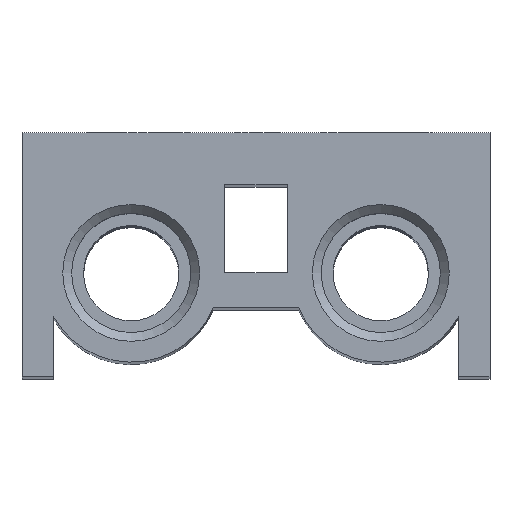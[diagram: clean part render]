
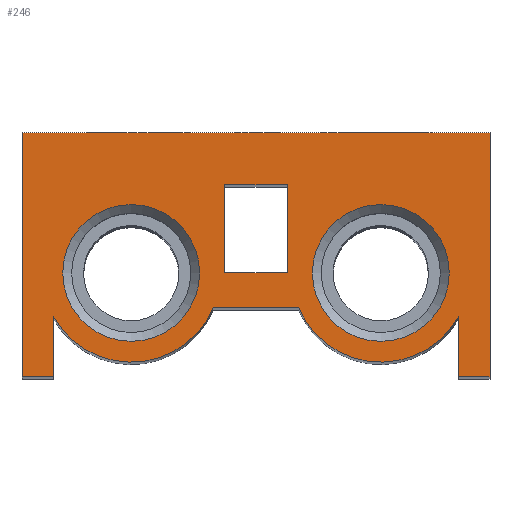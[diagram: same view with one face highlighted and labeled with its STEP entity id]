
A CAD part, top view. The second image highlights one B-rep face of the part: STEP entity #246.
In plain terms, the highlighted planar face has unit normal (0, 0, 1).
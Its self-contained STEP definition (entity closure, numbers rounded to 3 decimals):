
#246 = ADVANCED_FACE( '', ( #584, #585, #586, #587 ), #588, .T. );
#584 = FACE_BOUND( '', #965, .T. );
#585 = FACE_BOUND( '', #966, .T. );
#586 = FACE_BOUND( '', #967, .T. );
#587 = FACE_OUTER_BOUND( '', #968, .T. );
#588 = PLANE( '', #969 );
#965 = EDGE_LOOP( '', ( #1575 ) );
#966 = EDGE_LOOP( '', ( #1576 ) );
#967 = EDGE_LOOP( '', ( #1577, #1578, #1579, #1580 ) );
#968 = EDGE_LOOP( '', ( #1581, #1582, #1583, #1584, #1585, #1586, #1587, #1588, #1589, #1590 ) );
#969 = AXIS2_PLACEMENT_3D( '', #1591, #1592, #1593 );
#1575 = ORIENTED_EDGE( '', *, *, #1791, .T. );
#1576 = ORIENTED_EDGE( '', *, *, #2002, .T. );
#1577 = ORIENTED_EDGE( '', *, *, #2003, .F. );
#1578 = ORIENTED_EDGE( '', *, *, #1932, .F. );
#1579 = ORIENTED_EDGE( '', *, *, #1883, .F. );
#1580 = ORIENTED_EDGE( '', *, *, #1947, .F. );
#1581 = ORIENTED_EDGE( '', *, *, #1921, .T. );
#1582 = ORIENTED_EDGE( '', *, *, #2004, .T. );
#1583 = ORIENTED_EDGE( '', *, *, #2005, .T. );
#1584 = ORIENTED_EDGE( '', *, *, #2006, .T. );
#1585 = ORIENTED_EDGE( '', *, *, #2007, .T. );
#1586 = ORIENTED_EDGE( '', *, *, #1929, .T. );
#1587 = ORIENTED_EDGE( '', *, *, #1847, .T. );
#1588 = ORIENTED_EDGE( '', *, *, #1904, .T. );
#1589 = ORIENTED_EDGE( '', *, *, #1944, .T. );
#1590 = ORIENTED_EDGE( '', *, *, #1999, .T. );
#1591 = CARTESIAN_POINT( '', ( -12., 10., 138. ) );
#1592 = DIRECTION( '', ( 0., 0., 1. ) );
#1593 = DIRECTION( '', ( 1., 0., 0. ) );
#1791 = EDGE_CURVE( '', #2054, #2054, #2055, .T. );
#1847 = EDGE_CURVE( '', #2148, #2146, #2149, .T. );
#1883 = EDGE_CURVE( '', #2206, #2208, #2209, .T. );
#1904 = EDGE_CURVE( '', #2146, #2242, #2244, .T. );
#1921 = EDGE_CURVE( '', #2276, #2274, #2277, .T. );
#1929 = EDGE_CURVE( '', #2288, #2148, #2289, .T. );
#1932 = EDGE_CURVE( '', #2208, #2292, #2293, .T. );
#1944 = EDGE_CURVE( '', #2242, #2309, #2311, .T. );
#1947 = EDGE_CURVE( '', #2313, #2206, #2315, .T. );
#1999 = EDGE_CURVE( '', #2309, #2276, #2382, .T. );
#2002 = EDGE_CURVE( '', #2385, #2385, #2386, .T. );
#2003 = EDGE_CURVE( '', #2292, #2313, #2387, .T. );
#2004 = EDGE_CURVE( '', #2274, #2388, #2389, .T. );
#2005 = EDGE_CURVE( '', #2388, #2390, #2391, .T. );
#2006 = EDGE_CURVE( '', #2390, #2392, #2393, .T. );
#2007 = EDGE_CURVE( '', #2392, #2288, #2394, .T. );
#2054 = VERTEX_POINT( '', #2446 );
#2055 = CIRCLE( '', #2447, 6.579 );
#2146 = VERTEX_POINT( '', #2612 );
#2148 = VERTEX_POINT( '', #2615 );
#2149 = CIRCLE( '', #2616, 8.579 );
#2206 = VERTEX_POINT( '', #2779 );
#2208 = VERTEX_POINT( '', #2782 );
#2209 = LINE( '', #2783, #2784 );
#2242 = VERTEX_POINT( '', #2829 );
#2244 = LINE( '', #2832, #2833 );
#2274 = VERTEX_POINT( '', #2863 );
#2276 = VERTEX_POINT( '', #2866 );
#2277 = LINE( '', #2867, #2868 );
#2288 = VERTEX_POINT( '', #2914 );
#2289 = LINE( '', #2915, #2916 );
#2292 = VERTEX_POINT( '', #2920 );
#2293 = LINE( '', #2921, #2922 );
#2309 = VERTEX_POINT( '', #2940 );
#2311 = LINE( '', #2943, #2944 );
#2313 = VERTEX_POINT( '', #2946 );
#2315 = LINE( '', #2949, #2950 );
#2382 = LINE( '', #3164, #3165 );
#2385 = VERTEX_POINT( '', #3168 );
#2386 = CIRCLE( '', #3169, 6.579 );
#2387 = LINE( '', #3170, #3171 );
#2388 = VERTEX_POINT( '', #3172 );
#2389 = LINE( '', #3173, #3174 );
#2390 = VERTEX_POINT( '', #3175 );
#2391 = LINE( '', #3176, #3177 );
#2392 = VERTEX_POINT( '', #3178 );
#2393 = LINE( '', #3179, #3180 );
#2394 = CIRCLE( '', #3181, 8.579 );
#2446 = CARTESIAN_POINT( '', ( -18.579, 10., 138. ) );
#2447 = AXIS2_PLACEMENT_3D( '', #3237, #3238, #3239 );
#2612 = CARTESIAN_POINT( '', ( 19.5, 5.836, 138. ) );
#2615 = CARTESIAN_POINT( '', ( 4.096, 6.667, 138. ) );
#2616 = AXIS2_PLACEMENT_3D( '', #3325, #3326, #3327 );
#2779 = CARTESIAN_POINT( '', ( -3., 10., 138. ) );
#2782 = CARTESIAN_POINT( '', ( 3., 10., 138. ) );
#2783 = CARTESIAN_POINT( '', ( -3., 10., 138. ) );
#2784 = VECTOR( '', #3375, 1000. );
#2829 = CARTESIAN_POINT( '', ( 19.5, 0., 138. ) );
#2832 = CARTESIAN_POINT( '', ( 19.5, 5.836, 138. ) );
#2833 = VECTOR( '', #3401, 1000. );
#2863 = CARTESIAN_POINT( '', ( -22.5, 23.5, 138. ) );
#2866 = CARTESIAN_POINT( '', ( 22.5, 23.5, 138. ) );
#2867 = CARTESIAN_POINT( '', ( 22.5, 23.5, 138. ) );
#2868 = VECTOR( '', #3445, 1000. );
#2914 = CARTESIAN_POINT( '', ( -4.096, 6.667, 138. ) );
#2915 = CARTESIAN_POINT( '', ( -4.096, 6.667, 138. ) );
#2916 = VECTOR( '', #3453, 1000. );
#2920 = CARTESIAN_POINT( '', ( 3., 18.5, 138. ) );
#2921 = CARTESIAN_POINT( '', ( 3., 10., 138. ) );
#2922 = VECTOR( '', #3455, 1000. );
#2940 = CARTESIAN_POINT( '', ( 22.5, 0., 138. ) );
#2943 = CARTESIAN_POINT( '', ( 19.5, 0., 138. ) );
#2944 = VECTOR( '', #3471, 1000. );
#2946 = CARTESIAN_POINT( '', ( -3., 18.5, 138. ) );
#2949 = CARTESIAN_POINT( '', ( -3., 18.5, 138. ) );
#2950 = VECTOR( '', #3473, 1000. );
#3164 = CARTESIAN_POINT( '', ( 22.5, 0., 138. ) );
#3165 = VECTOR( '', #3518, 1000. );
#3168 = CARTESIAN_POINT( '', ( 5.422, 10., 138. ) );
#3169 = AXIS2_PLACEMENT_3D( '', #3519, #3520, #3521 );
#3170 = CARTESIAN_POINT( '', ( 3., 18.5, 138. ) );
#3171 = VECTOR( '', #3522, 1000. );
#3172 = CARTESIAN_POINT( '', ( -22.5, 0., 138. ) );
#3173 = CARTESIAN_POINT( '', ( -22.5, 23.5, 138. ) );
#3174 = VECTOR( '', #3523, 1000. );
#3175 = CARTESIAN_POINT( '', ( -19.5, 0., 138. ) );
#3176 = CARTESIAN_POINT( '', ( -22.5, 0., 138. ) );
#3177 = VECTOR( '', #3524, 1000. );
#3178 = CARTESIAN_POINT( '', ( -19.5, 5.836, 138. ) );
#3179 = CARTESIAN_POINT( '', ( -19.5, 0., 138. ) );
#3180 = VECTOR( '', #3525, 1000. );
#3181 = AXIS2_PLACEMENT_3D( '', #3526, #3527, #3528 );
#3237 = CARTESIAN_POINT( '', ( -12., 10., 138. ) );
#3238 = DIRECTION( '', ( 0., 0., -1. ) );
#3239 = DIRECTION( '', ( -1., 0., 0. ) );
#3325 = CARTESIAN_POINT( '', ( 12., 10., 138. ) );
#3326 = DIRECTION( '', ( 0., 0., 1. ) );
#3327 = DIRECTION( '', ( 1., 0., 0. ) );
#3375 = DIRECTION( '', ( 1., 0., 0. ) );
#3401 = DIRECTION( '', ( 0., -1., 0. ) );
#3445 = DIRECTION( '', ( -1., 0., 0. ) );
#3453 = DIRECTION( '', ( 1., 0., 0. ) );
#3455 = DIRECTION( '', ( 0., 1., 0. ) );
#3471 = DIRECTION( '', ( 1., 0., 0. ) );
#3473 = DIRECTION( '', ( 0., -1., 0. ) );
#3518 = DIRECTION( '', ( 0., 1., 0. ) );
#3519 = CARTESIAN_POINT( '', ( 12., 10., 138. ) );
#3520 = DIRECTION( '', ( 0., 0., -1. ) );
#3521 = DIRECTION( '', ( -1., 0., 0. ) );
#3522 = DIRECTION( '', ( -1., 0., 0. ) );
#3523 = DIRECTION( '', ( 0., -1., 0. ) );
#3524 = DIRECTION( '', ( 1., 0., 0. ) );
#3525 = DIRECTION( '', ( 0., 1., 0. ) );
#3526 = CARTESIAN_POINT( '', ( -12., 10., 138. ) );
#3527 = DIRECTION( '', ( 0., 0., 1. ) );
#3528 = DIRECTION( '', ( 1., 0., 0. ) );
